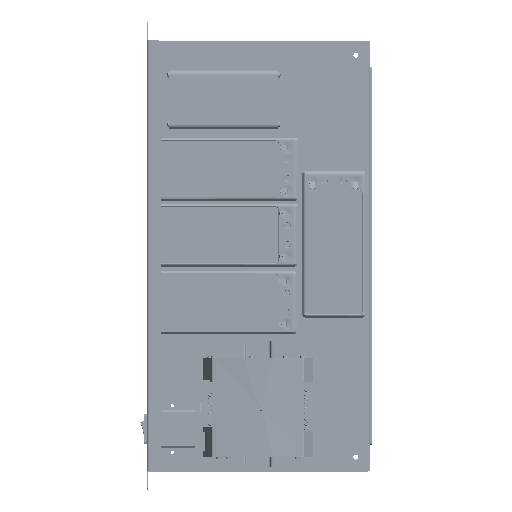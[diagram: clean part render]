
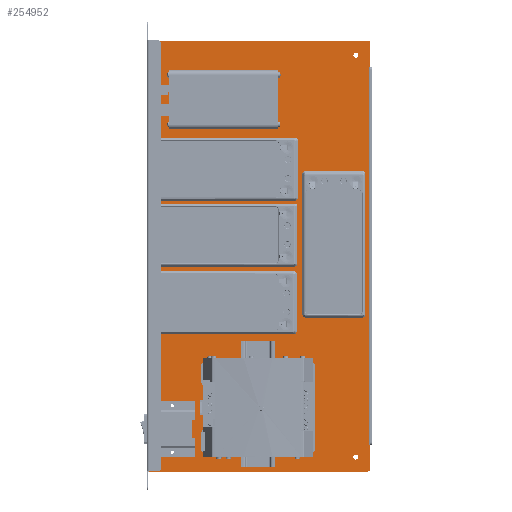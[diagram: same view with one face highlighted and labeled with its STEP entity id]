
A CAD part, top view. The second image highlights one B-rep face of the part: STEP entity #254952.
In plain terms, the highlighted planar face has unit normal (0, 0, 1).
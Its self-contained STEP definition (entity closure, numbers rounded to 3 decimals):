
#15476=CIRCLE('',#309433,2.6);
#15477=CIRCLE('',#309434,2.6);
#15478=CIRCLE('',#309435,2.);
#15479=CIRCLE('',#309436,2.);
#15480=CIRCLE('',#309437,2.);
#15481=CIRCLE('',#309438,2.);
#15482=CIRCLE('',#309439,2.);
#15483=CIRCLE('',#309440,2.);
#15484=CIRCLE('',#309441,2.);
#15485=CIRCLE('',#309442,2.);
#15486=CIRCLE('',#309443,3.);
#15487=CIRCLE('',#309444,3.);
#20449=ORIENTED_EDGE('',*,*,#98334,.F.);
#20450=ORIENTED_EDGE('',*,*,#98335,.F.);
#20451=ORIENTED_EDGE('',*,*,#98336,.F.);
#20452=ORIENTED_EDGE('',*,*,#98337,.F.);
#20453=ORIENTED_EDGE('',*,*,#98338,.F.);
#20454=ORIENTED_EDGE('',*,*,#98339,.F.);
#20455=ORIENTED_EDGE('',*,*,#98340,.F.);
#20456=ORIENTED_EDGE('',*,*,#98341,.F.);
#20457=ORIENTED_EDGE('',*,*,#98342,.F.);
#20458=ORIENTED_EDGE('',*,*,#98343,.F.);
#20459=ORIENTED_EDGE('',*,*,#98321,.T.);
#20460=ORIENTED_EDGE('',*,*,#98344,.T.);
#20461=ORIENTED_EDGE('',*,*,#98324,.T.);
#20462=ORIENTED_EDGE('',*,*,#98345,.F.);
#20463=ORIENTED_EDGE('',*,*,#98346,.F.);
#20464=ORIENTED_EDGE('',*,*,#98347,.T.);
#20465=ORIENTED_EDGE('',*,*,#98348,.T.);
#20466=ORIENTED_EDGE('',*,*,#98349,.T.);
#20467=ORIENTED_EDGE('',*,*,#98201,.T.);
#20468=ORIENTED_EDGE('',*,*,#98350,.T.);
#20469=ORIENTED_EDGE('',*,*,#98328,.F.);
#20470=ORIENTED_EDGE('',*,*,#98333,.F.);
#98201=EDGE_CURVE('',#137175,#137174,#163021,.T.);
#98321=EDGE_CURVE('',#137267,#137266,#163109,.T.);
#98324=EDGE_CURVE('',#137268,#137269,#163110,.T.);
#98328=EDGE_CURVE('',#137272,#137273,#163114,.T.);
#98333=EDGE_CURVE('',#137267,#137272,#163117,.T.);
#98334=EDGE_CURVE('',#137276,#137276,#15476,.T.);
#98335=EDGE_CURVE('',#137277,#137277,#15477,.T.);
#98336=EDGE_CURVE('',#137278,#137278,#15478,.T.);
#98337=EDGE_CURVE('',#137279,#137279,#15479,.T.);
#98338=EDGE_CURVE('',#137280,#137280,#15480,.T.);
#98339=EDGE_CURVE('',#137281,#137281,#15481,.T.);
#98340=EDGE_CURVE('',#137282,#137282,#15482,.T.);
#98341=EDGE_CURVE('',#137283,#137283,#15483,.T.);
#98342=EDGE_CURVE('',#137284,#137284,#15484,.T.);
#98343=EDGE_CURVE('',#137285,#137285,#15485,.T.);
#98344=EDGE_CURVE('',#137266,#137268,#15486,.T.);
#98345=EDGE_CURVE('',#137286,#137269,#163118,.T.);
#98346=EDGE_CURVE('',#137287,#137286,#163119,.T.);
#98347=EDGE_CURVE('',#137287,#137288,#163120,.T.);
#98348=EDGE_CURVE('',#137288,#137289,#163121,.T.);
#98349=EDGE_CURVE('',#137289,#137175,#163122,.T.);
#98350=EDGE_CURVE('',#137174,#137273,#15487,.T.);
#137174=VERTEX_POINT('',#389719);
#137175=VERTEX_POINT('',#389721);
#137266=VERTEX_POINT('',#389955);
#137267=VERTEX_POINT('',#389957);
#137268=VERTEX_POINT('',#389962);
#137269=VERTEX_POINT('',#389963);
#137272=VERTEX_POINT('',#389971);
#137273=VERTEX_POINT('',#389972);
#137276=VERTEX_POINT('',#389983);
#137277=VERTEX_POINT('',#389985);
#137278=VERTEX_POINT('',#389987);
#137279=VERTEX_POINT('',#389989);
#137280=VERTEX_POINT('',#389991);
#137281=VERTEX_POINT('',#389993);
#137282=VERTEX_POINT('',#389995);
#137283=VERTEX_POINT('',#389997);
#137284=VERTEX_POINT('',#389999);
#137285=VERTEX_POINT('',#390001);
#137286=VERTEX_POINT('',#390004);
#137287=VERTEX_POINT('',#390006);
#137288=VERTEX_POINT('',#390008);
#137289=VERTEX_POINT('',#390010);
#163021=LINE('',#389720,#188062);
#163109=LINE('',#389956,#188150);
#163110=LINE('',#389961,#188151);
#163114=LINE('',#389970,#188155);
#163117=LINE('',#389980,#188158);
#163118=LINE('',#390003,#188159);
#163119=LINE('',#390005,#188160);
#163120=LINE('',#390007,#188161);
#163121=LINE('',#390009,#188162);
#163122=LINE('',#390011,#188163);
#188062=VECTOR('',#327808,1000.);
#188150=VECTOR('',#328008,1000.);
#188151=VECTOR('',#328015,1000.);
#188155=VECTOR('',#328021,1000.);
#188158=VECTOR('',#328030,1000.);
#188159=VECTOR('',#328055,1000.);
#188160=VECTOR('',#328056,1000.);
#188161=VECTOR('',#328057,1000.);
#188162=VECTOR('',#328058,1000.);
#188163=VECTOR('',#328059,1000.);
#213141=EDGE_LOOP('',(#20449));
#213142=EDGE_LOOP('',(#20450));
#213143=EDGE_LOOP('',(#20451));
#213144=EDGE_LOOP('',(#20452));
#213145=EDGE_LOOP('',(#20453));
#213146=EDGE_LOOP('',(#20454));
#213147=EDGE_LOOP('',(#20455));
#213148=EDGE_LOOP('',(#20456));
#213149=EDGE_LOOP('',(#20457));
#213150=EDGE_LOOP('',(#20458));
#213151=EDGE_LOOP('',(#20459,#20460,#20461,#20462,#20463,#20464,#20465,
#20466,#20467,#20468,#20469,#20470));
#229094=FACE_BOUND('',#213141,.T.);
#229095=FACE_BOUND('',#213142,.T.);
#229096=FACE_BOUND('',#213143,.T.);
#229097=FACE_BOUND('',#213144,.T.);
#229098=FACE_BOUND('',#213145,.T.);
#229099=FACE_BOUND('',#213146,.T.);
#229100=FACE_BOUND('',#213147,.T.);
#229101=FACE_BOUND('',#213148,.T.);
#229102=FACE_BOUND('',#213149,.T.);
#229103=FACE_BOUND('',#213150,.T.);
#229104=FACE_BOUND('',#213151,.T.);
#245045=PLANE('',#309432);
#254952=ADVANCED_FACE('',(#229094,#229095,#229096,#229097,#229098,#229099,
#229100,#229101,#229102,#229103,#229104),#245045,.T.);
#309432=AXIS2_PLACEMENT_3D('',#389981,#328031,#328032);
#309433=AXIS2_PLACEMENT_3D('',#389982,#328033,#328034);
#309434=AXIS2_PLACEMENT_3D('',#389984,#328035,#328036);
#309435=AXIS2_PLACEMENT_3D('',#389986,#328037,#328038);
#309436=AXIS2_PLACEMENT_3D('',#389988,#328039,#328040);
#309437=AXIS2_PLACEMENT_3D('',#389990,#328041,#328042);
#309438=AXIS2_PLACEMENT_3D('',#389992,#328043,#328044);
#309439=AXIS2_PLACEMENT_3D('',#389994,#328045,#328046);
#309440=AXIS2_PLACEMENT_3D('',#389996,#328047,#328048);
#309441=AXIS2_PLACEMENT_3D('',#389998,#328049,#328050);
#309442=AXIS2_PLACEMENT_3D('',#390000,#328051,#328052);
#309443=AXIS2_PLACEMENT_3D('',#390002,#328053,#328054);
#309444=AXIS2_PLACEMENT_3D('',#390012,#328060,#328061);
#327808=DIRECTION('',(0.,1.,0.));
#328008=DIRECTION('',(1.,0.,0.));
#328015=DIRECTION('',(0.,1.,0.));
#328021=DIRECTION('',(1.,0.,0.));
#328030=DIRECTION('',(0.,1.,0.));
#328031=DIRECTION('',(0.,0.,1.));
#328032=DIRECTION('',(1.,0.,0.));
#328033=DIRECTION('',(0.,0.,1.));
#328034=DIRECTION('',(1.,0.,0.));
#328035=DIRECTION('',(0.,0.,1.));
#328036=DIRECTION('',(1.,0.,0.));
#328037=DIRECTION('',(0.,0.,1.));
#328038=DIRECTION('',(1.,0.,0.));
#328039=DIRECTION('',(0.,0.,1.));
#328040=DIRECTION('',(1.,0.,0.));
#328041=DIRECTION('',(0.,0.,1.));
#328042=DIRECTION('',(1.,0.,0.));
#328043=DIRECTION('',(0.,0.,1.));
#328044=DIRECTION('',(1.,0.,0.));
#328045=DIRECTION('',(0.,0.,1.));
#328046=DIRECTION('',(1.,0.,0.));
#328047=DIRECTION('',(0.,0.,1.));
#328048=DIRECTION('',(1.,0.,0.));
#328049=DIRECTION('',(0.,0.,1.));
#328050=DIRECTION('',(1.,0.,0.));
#328051=DIRECTION('',(0.,0.,1.));
#328052=DIRECTION('',(1.,0.,0.));
#328053=DIRECTION('',(0.,0.,1.));
#328054=DIRECTION('',(1.,0.,0.));
#328055=DIRECTION('',(1.,0.,0.));
#328056=DIRECTION('',(0.,-1.,0.));
#328057=DIRECTION('',(0.,1.,0.));
#328058=DIRECTION('',(0.,1.,0.));
#328059=DIRECTION('',(1.,0.,0.));
#328060=DIRECTION('',(0.,0.,1.));
#328061=DIRECTION('',(1.,0.,0.));
#389719=CARTESIAN_POINT('',(231.,219.25,1.5));
#389720=CARTESIAN_POINT('',(231.,-222.25,1.5));
#389721=CARTESIAN_POINT('',(231.,195.002,1.5));
#389955=CARTESIAN_POINT('',(228.,-222.25,1.5));
#389956=CARTESIAN_POINT('',(3.,-222.25,1.5));
#389957=CARTESIAN_POINT('',(3.,-222.25,1.5));
#389961=CARTESIAN_POINT('',(231.,-222.25,1.5));
#389962=CARTESIAN_POINT('',(231.,-219.25,1.5));
#389963=CARTESIAN_POINT('',(231.,-195.002,1.5));
#389970=CARTESIAN_POINT('',(3.,222.25,1.5));
#389971=CARTESIAN_POINT('',(3.,222.25,1.5));
#389972=CARTESIAN_POINT('',(228.,222.25,1.5));
#389980=CARTESIAN_POINT('',(3.,-222.25,1.5));
#389981=CARTESIAN_POINT('',(3.,-222.25,1.5));
#389982=CARTESIAN_POINT('',(216.,207.25,1.5));
#389983=CARTESIAN_POINT('',(218.6,207.25,1.5));
#389984=CARTESIAN_POINT('',(216.,-207.25,1.5));
#389985=CARTESIAN_POINT('',(218.6,-207.25,1.5));
#389986=CARTESIAN_POINT('',(115.,-197.25,1.5));
#389987=CARTESIAN_POINT('',(117.,-197.25,1.5));
#389988=CARTESIAN_POINT('',(115.,-107.25,1.5));
#389989=CARTESIAN_POINT('',(117.,-107.25,1.5));
#389990=CARTESIAN_POINT('',(26.5,-154.25,1.5));
#389991=CARTESIAN_POINT('',(28.5,-154.25,1.5));
#389992=CARTESIAN_POINT('',(26.5,-202.25,1.5));
#389993=CARTESIAN_POINT('',(28.5,-202.25,1.5));
#389994=CARTESIAN_POINT('',(79.8,176.25,1.5));
#389995=CARTESIAN_POINT('',(81.8,176.25,1.5));
#389996=CARTESIAN_POINT('',(79.8,146.25,1.5));
#389997=CARTESIAN_POINT('',(81.8,146.25,1.5));
#389998=CARTESIAN_POINT('',(64.3,176.25,1.5));
#389999=CARTESIAN_POINT('',(66.3,176.25,1.5));
#390000=CARTESIAN_POINT('',(64.3,146.25,1.5));
#390001=CARTESIAN_POINT('',(66.3,146.25,1.5));
#390002=CARTESIAN_POINT('',(228.,-219.25,1.5));
#390003=CARTESIAN_POINT('',(231.,-195.002,1.5));
#390004=CARTESIAN_POINT('',(229.5,-195.002,1.5));
#390005=CARTESIAN_POINT('',(229.5,-195.002,1.5));
#390006=CARTESIAN_POINT('',(229.5,-195.,1.5));
#390007=CARTESIAN_POINT('',(229.5,-222.25,1.5));
#390008=CARTESIAN_POINT('',(229.5,195.,1.5));
#390009=CARTESIAN_POINT('',(229.5,195.002,1.5));
#390010=CARTESIAN_POINT('',(229.5,195.002,1.5));
#390011=CARTESIAN_POINT('',(231.,195.002,1.5));
#390012=CARTESIAN_POINT('',(228.,219.25,1.5));
